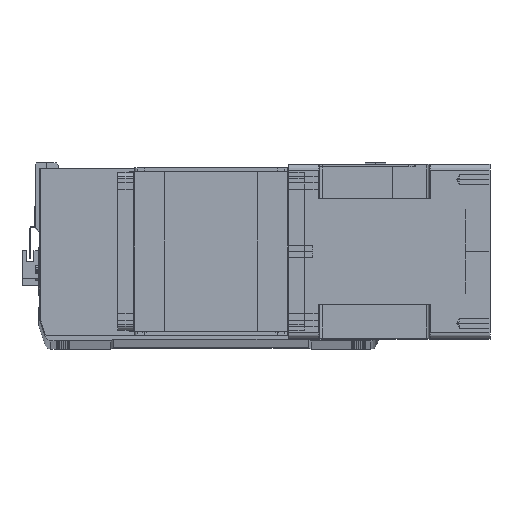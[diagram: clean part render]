
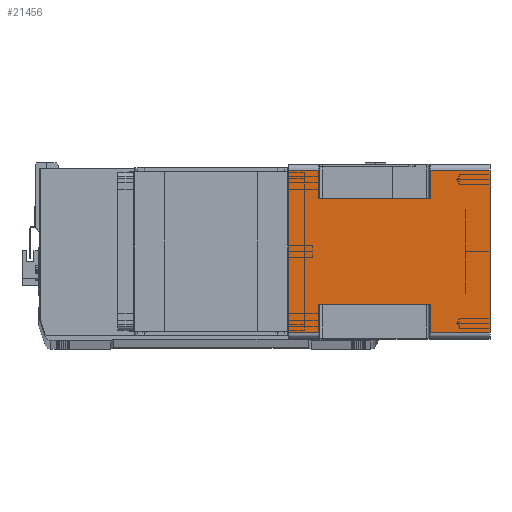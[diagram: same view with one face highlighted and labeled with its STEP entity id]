
A CAD part, top view. The second image highlights one B-rep face of the part: STEP entity #21456.
In plain terms, the highlighted planar face has unit normal (0, 0, 1) as drawn and (1, 0, 0) by its records, which use the part's own axes.
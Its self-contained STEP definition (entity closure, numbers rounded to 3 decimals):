
#126 = DIRECTION ( 'NONE',  ( 0., -1., 0. ) ) ;
#361 = CARTESIAN_POINT ( 'NONE',  ( 71., -66., -164. ) ) ;
#560 = CARTESIAN_POINT ( 'NONE',  ( 71., -66., -24.5 ) ) ;
#1058 = EDGE_CURVE ( 'NONE', #14766, #5358, #15207, .T. ) ;
#1110 = CARTESIAN_POINT ( 'NONE',  ( 71., -43., -164. ) ) ;
#1237 = DIRECTION ( 'NONE',  ( 0., 0., 1. ) ) ;
#1427 = ORIENTED_EDGE ( 'NONE', *, *, #14662, .T. ) ;
#1533 = CARTESIAN_POINT ( 'NONE',  ( 71., -66., -115.5 ) ) ;
#1655 = LINE ( 'NONE', #32659, #29766 ) ;
#2050 = LINE ( 'NONE', #34733, #23903 ) ;
#2996 = VERTEX_POINT ( 'NONE', #14485 ) ;
#3297 = DIRECTION ( 'NONE',  ( 0., 0., 1. ) ) ;
#3302 = LINE ( 'NONE', #560, #36409 ) ;
#3928 = EDGE_CURVE ( 'NONE', #25729, #14766, #23878, .T. ) ;
#4915 = CARTESIAN_POINT ( 'NONE',  ( 71., -66., 0. ) ) ;
#5177 = ORIENTED_EDGE ( 'NONE', *, *, #20946, .T. ) ;
#5311 = CARTESIAN_POINT ( 'NONE',  ( 71., -66., -164. ) ) ;
#5358 = VERTEX_POINT ( 'NONE', #30831 ) ;
#6296 = CARTESIAN_POINT ( 'NONE',  ( 71., 43., -24.5 ) ) ;
#6687 = VECTOR ( 'NONE', #126, 1000. ) ;
#7593 = VECTOR ( 'NONE', #30641, 1000. ) ;
#8017 = CARTESIAN_POINT ( 'NONE',  ( 71., -43., -24.5 ) ) ;
#8256 = ORIENTED_EDGE ( 'NONE', *, *, #3928, .F. ) ;
#8304 = VERTEX_POINT ( 'NONE', #8017 ) ;
#8566 = VERTEX_POINT ( 'NONE', #6296 ) ;
#10513 = CARTESIAN_POINT ( 'NONE',  ( 71., -43., -115.5 ) ) ;
#10890 = CARTESIAN_POINT ( 'NONE',  ( 71., -66., -164. ) ) ;
#11784 = EDGE_CURVE ( 'NONE', #36309, #5358, #1655, .T. ) ;
#12372 = EDGE_CURVE ( 'NONE', #20960, #24226, #34643, .T. ) ;
#12932 = EDGE_LOOP ( 'NONE', ( #22762, #26874, #33869, #19018, #31032, #5177, #36835, #13440, #31349, #35682, #8256, #1427 ) ) ;
#13440 = ORIENTED_EDGE ( 'NONE', *, *, #24629, .T. ) ;
#13851 = CARTESIAN_POINT ( 'NONE',  ( 71., -66., -24.5 ) ) ;
#13906 = DIRECTION ( 'NONE',  ( 1., 0., 0. ) ) ;
#14485 = CARTESIAN_POINT ( 'NONE',  ( 71., 66., -115.5 ) ) ;
#14520 = VECTOR ( 'NONE', #28558, 1000. ) ;
#14573 = AXIS2_PLACEMENT_3D ( 'NONE', #10890, #13906, #24853 ) ;
#14662 = EDGE_CURVE ( 'NONE', #25729, #8304, #25855, .T. ) ;
#14766 = VERTEX_POINT ( 'NONE', #25506 ) ;
#15188 = VERTEX_POINT ( 'NONE', #10513 ) ;
#15207 = LINE ( 'NONE', #4915, #7593 ) ;
#15390 = CARTESIAN_POINT ( 'NONE',  ( 71., 43., -115.5 ) ) ;
#16457 = VECTOR ( 'NONE', #16552, 1000. ) ;
#16552 = DIRECTION ( 'NONE',  ( 0., 1., 0. ) ) ;
#17611 = DIRECTION ( 'NONE',  ( 0., 0., -1. ) ) ;
#18718 = FACE_OUTER_BOUND ( 'NONE', #12932, .T. ) ;
#19018 = ORIENTED_EDGE ( 'NONE', *, *, #12372, .T. ) ;
#19065 = VECTOR ( 'NONE', #3297, 1000. ) ;
#20946 = EDGE_CURVE ( 'NONE', #2996, #33632, #21931, .T. ) ;
#20960 = VERTEX_POINT ( 'NONE', #30227 ) ;
#21427 = DIRECTION ( 'NONE',  ( 0., 0., 1. ) ) ;
#21456 = ADVANCED_FACE ( 'NONE', ( #18718 ), #27840, .T. ) ;
#21931 = LINE ( 'NONE', #24571, #23693 ) ;
#22762 = ORIENTED_EDGE ( 'NONE', *, *, #30098, .F. ) ;
#23273 = DIRECTION ( 'NONE',  ( 0., 1., 0. ) ) ;
#23693 = VECTOR ( 'NONE', #24209, 1000. ) ;
#23878 = LINE ( 'NONE', #361, #14520 ) ;
#23896 = VECTOR ( 'NONE', #35993, 1000. ) ;
#23903 = VECTOR ( 'NONE', #17611, 1000. ) ;
#24209 = DIRECTION ( 'NONE',  ( 0., -1., 0. ) ) ;
#24226 = VERTEX_POINT ( 'NONE', #31429 ) ;
#24571 = CARTESIAN_POINT ( 'NONE',  ( 71., 43., -115.5 ) ) ;
#24629 = EDGE_CURVE ( 'NONE', #8566, #36309, #3302, .T. ) ;
#24853 = DIRECTION ( 'NONE',  ( 0., 1., 0. ) ) ;
#25428 = LINE ( 'NONE', #34341, #6687 ) ;
#25506 = CARTESIAN_POINT ( 'NONE',  ( 71., -66., 0. ) ) ;
#25729 = VERTEX_POINT ( 'NONE', #13851 ) ;
#25855 = LINE ( 'NONE', #37057, #16457 ) ;
#26124 = CARTESIAN_POINT ( 'NONE',  ( 71., 66., -24.5 ) ) ;
#26874 = ORIENTED_EDGE ( 'NONE', *, *, #29918, .T. ) ;
#27840 = PLANE ( 'NONE',  #14573 ) ;
#28516 = VECTOR ( 'NONE', #1237, 1000. ) ;
#28558 = DIRECTION ( 'NONE',  ( 0., 0., 1. ) ) ;
#29020 = LINE ( 'NONE', #5311, #35753 ) ;
#29766 = VECTOR ( 'NONE', #21427, 1000. ) ;
#29918 = EDGE_CURVE ( 'NONE', #15188, #37033, #25428, .T. ) ;
#30098 = EDGE_CURVE ( 'NONE', #15188, #8304, #31225, .T. ) ;
#30227 = CARTESIAN_POINT ( 'NONE',  ( 71., -66., -164. ) ) ;
#30641 = DIRECTION ( 'NONE',  ( 0., 1., 0. ) ) ;
#30695 = CARTESIAN_POINT ( 'NONE',  ( 71., -66., -164. ) ) ;
#30831 = CARTESIAN_POINT ( 'NONE',  ( 71., 66., 0. ) ) ;
#30918 = DIRECTION ( 'NONE',  ( 0., 0., 1. ) ) ;
#31032 = ORIENTED_EDGE ( 'NONE', *, *, #31166, .T. ) ;
#31166 = EDGE_CURVE ( 'NONE', #24226, #2996, #32483, .T. ) ;
#31225 = LINE ( 'NONE', #1110, #28516 ) ;
#31349 = ORIENTED_EDGE ( 'NONE', *, *, #11784, .T. ) ;
#31429 = CARTESIAN_POINT ( 'NONE',  ( 71., 66., -164. ) ) ;
#31636 = CARTESIAN_POINT ( 'NONE',  ( 71., 66., -164. ) ) ;
#31676 = EDGE_CURVE ( 'NONE', #8566, #33632, #2050, .T. ) ;
#32483 = LINE ( 'NONE', #31636, #19065 ) ;
#32659 = CARTESIAN_POINT ( 'NONE',  ( 71., 66., -164. ) ) ;
#33632 = VERTEX_POINT ( 'NONE', #15390 ) ;
#33869 = ORIENTED_EDGE ( 'NONE', *, *, #36218, .F. ) ;
#34341 = CARTESIAN_POINT ( 'NONE',  ( 71., -66., -115.5 ) ) ;
#34643 = LINE ( 'NONE', #30695, #23896 ) ;
#34733 = CARTESIAN_POINT ( 'NONE',  ( 71., 43., -164. ) ) ;
#35682 = ORIENTED_EDGE ( 'NONE', *, *, #1058, .F. ) ;
#35753 = VECTOR ( 'NONE', #30918, 1000. ) ;
#35993 = DIRECTION ( 'NONE',  ( 0., 1., 0. ) ) ;
#36218 = EDGE_CURVE ( 'NONE', #20960, #37033, #29020, .T. ) ;
#36309 = VERTEX_POINT ( 'NONE', #26124 ) ;
#36409 = VECTOR ( 'NONE', #23273, 1000. ) ;
#36835 = ORIENTED_EDGE ( 'NONE', *, *, #31676, .F. ) ;
#37033 = VERTEX_POINT ( 'NONE', #1533 ) ;
#37057 = CARTESIAN_POINT ( 'NONE',  ( 71., -43., -24.5 ) ) ;
